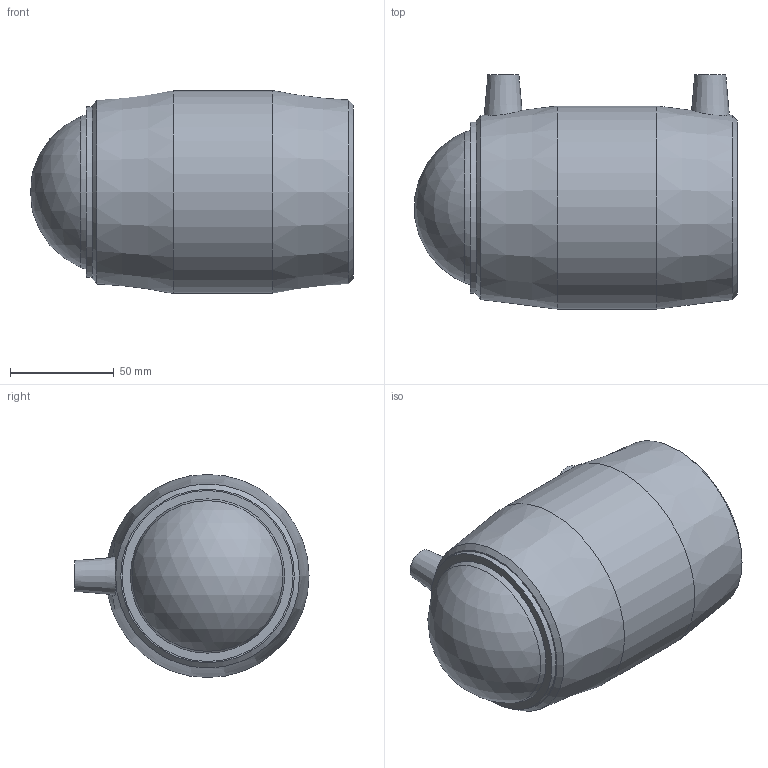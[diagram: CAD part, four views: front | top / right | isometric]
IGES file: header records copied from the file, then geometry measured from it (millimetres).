
Global section: file name: 491204075.ipt; native system: Autodesk Inventor 2015; preprocessor: unknown; author: KIM; date: 20171106.093753; units: millimetre
Bounding box: 155.73 x 113 x 98 mm (x, y, z)
Volume: 476936.1 mm3; surface area: 84821.5 mm2
Topology: 1 solids, 1 shells, 37 faces, 82 edges, 58 vertices
Faces by surface type: plane 13, revolution 13, cone 6, cylinder 4, sphere 1
Full cylindrical faces by diameter (mm): 4 x2, 82.5 x1, 98 x1
